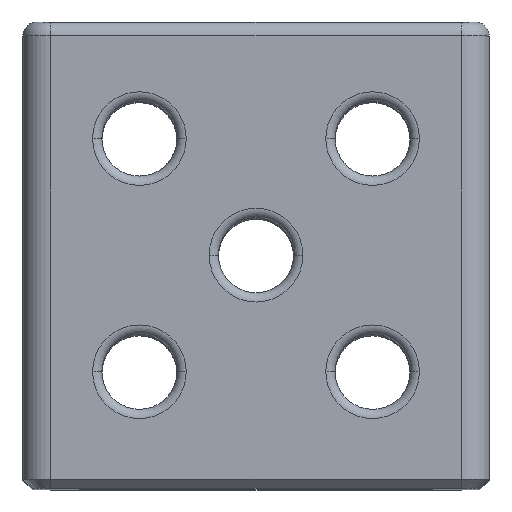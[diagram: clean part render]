
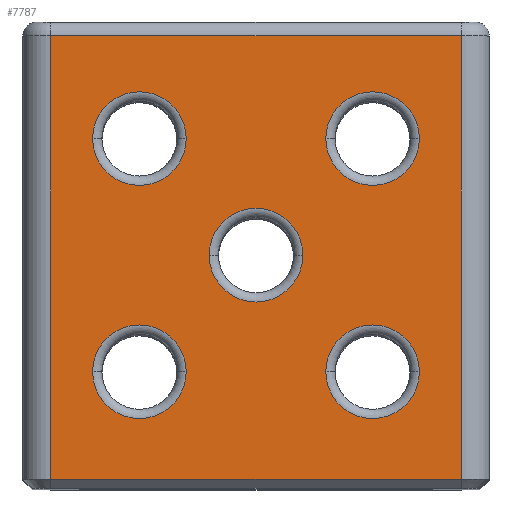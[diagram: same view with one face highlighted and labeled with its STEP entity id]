
A CAD part, top view. The second image highlights one B-rep face of the part: STEP entity #7787.
In plain terms, the highlighted planar face has unit normal (0, 0, 1).
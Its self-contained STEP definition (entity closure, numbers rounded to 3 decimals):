
#33 = CARTESIAN_POINT ( 'NONE',  ( -35.04, -75., 100. ) ) ;
#193 = DIRECTION ( 'NONE',  ( -1., 0., 0. ) ) ;
#211 = DIRECTION ( 'NONE',  ( -1., 0., 0. ) ) ;
#247 = DIRECTION ( 'NONE',  ( -1., 0., 0. ) ) ;
#415 = DIRECTION ( 'NONE',  ( -1., 0., 0. ) ) ;
#460 = VECTOR ( 'NONE', #3189, 1000. ) ;
#488 = EDGE_CURVE ( 'NONE', #6413, #2890, #1731, .T. ) ;
#493 = DIRECTION ( 'NONE',  ( 1., 0., 0. ) ) ;
#510 = CARTESIAN_POINT ( 'NONE',  ( -44., -98., 100. ) ) ;
#602 = EDGE_CURVE ( 'NONE', #4885, #8145, #8171, .T. ) ;
#664 = LINE ( 'NONE', #1286, #460 ) ;
#706 = CARTESIAN_POINT ( 'NONE',  ( 0., -3., 100. ) ) ;
#792 = FACE_BOUND ( 'NONE', #4499, .T. ) ;
#797 = CARTESIAN_POINT ( 'NONE',  ( 44., -3., 100. ) ) ;
#848 = DIRECTION ( 'NONE',  ( 0., 0., 1. ) ) ;
#854 = ORIENTED_EDGE ( 'NONE', *, *, #3053, .F. ) ;
#948 = CARTESIAN_POINT ( 'NONE',  ( 35.04, -25., 100. ) ) ;
#956 = CARTESIAN_POINT ( 'NONE',  ( 44., -98., 100. ) ) ;
#1043 = ORIENTED_EDGE ( 'NONE', *, *, #1738, .F. ) ;
#1104 = EDGE_CURVE ( 'NONE', #7746, #3282, #7986, .T. ) ;
#1257 = CIRCLE ( 'NONE', #8291, 10.04 ) ;
#1286 = CARTESIAN_POINT ( 'NONE',  ( -44., -12., 100. ) ) ;
#1330 = DIRECTION ( 'NONE',  ( 1., 0., 0. ) ) ;
#1434 = ORIENTED_EDGE ( 'NONE', *, *, #488, .F. ) ;
#1536 = LINE ( 'NONE', #706, #8376 ) ;
#1627 = ORIENTED_EDGE ( 'NONE', *, *, #4391, .T. ) ;
#1686 = CARTESIAN_POINT ( 'NONE',  ( -14.96, -25., 100. ) ) ;
#1731 = CIRCLE ( 'NONE', #2208, 10.04 ) ;
#1738 = EDGE_CURVE ( 'NONE', #4390, #2989, #1536, .T. ) ;
#1862 = EDGE_CURVE ( 'NONE', #8145, #4885, #6003, .T. ) ;
#1877 = CARTESIAN_POINT ( 'NONE',  ( 14.96, -25., 100. ) ) ;
#1935 = CARTESIAN_POINT ( 'NONE',  ( 25., -25., 100. ) ) ;
#2029 = CARTESIAN_POINT ( 'NONE',  ( 25., -75., 100. ) ) ;
#2208 = AXIS2_PLACEMENT_3D ( 'NONE', #2393, #2370, #2344 ) ;
#2246 = DIRECTION ( 'NONE',  ( 0., 0., -1. ) ) ;
#2263 = FACE_BOUND ( 'NONE', #5062, .T. ) ;
#2274 = CARTESIAN_POINT ( 'NONE',  ( -10.04, -50., 100. ) ) ;
#2344 = DIRECTION ( 'NONE',  ( -1., 0., 0. ) ) ;
#2364 = CIRCLE ( 'NONE', #4234, 10.04 ) ;
#2370 = DIRECTION ( 'NONE',  ( 0., 0., 1. ) ) ;
#2393 = CARTESIAN_POINT ( 'NONE',  ( -25., -25., 100. ) ) ;
#2460 = FACE_OUTER_BOUND ( 'NONE', #2491, .T. ) ;
#2491 = EDGE_LOOP ( 'NONE', ( #7878, #1043, #2725, #6098 ) ) ;
#2524 = ORIENTED_EDGE ( 'NONE', *, *, #1104, .F. ) ;
#2567 = DIRECTION ( 'NONE',  ( 1., 0., 0. ) ) ;
#2664 = DIRECTION ( 'NONE',  ( 1., 0., 0. ) ) ;
#2725 = ORIENTED_EDGE ( 'NONE', *, *, #6161, .F. ) ;
#2832 = AXIS2_PLACEMENT_3D ( 'NONE', #3374, #4034, #247 ) ;
#2890 = VERTEX_POINT ( 'NONE', #5128 ) ;
#2940 = CARTESIAN_POINT ( 'NONE',  ( 44., -12., 100. ) ) ;
#2989 = VERTEX_POINT ( 'NONE', #797 ) ;
#3053 = EDGE_CURVE ( 'NONE', #3282, #7746, #2364, .T. ) ;
#3189 = DIRECTION ( 'NONE',  ( 0., 1., 0. ) ) ;
#3216 = VERTEX_POINT ( 'NONE', #956 ) ;
#3282 = VERTEX_POINT ( 'NONE', #2274 ) ;
#3374 = CARTESIAN_POINT ( 'NONE',  ( 0., -12., 100. ) ) ;
#3494 = EDGE_LOOP ( 'NONE', ( #8070, #6323 ) ) ;
#3528 = DIRECTION ( 'NONE',  ( 0., 0., 1. ) ) ;
#3625 = AXIS2_PLACEMENT_3D ( 'NONE', #6045, #2246, #6770 ) ;
#3648 = DIRECTION ( 'NONE',  ( -1., 0., 0. ) ) ;
#3782 = VERTEX_POINT ( 'NONE', #948 ) ;
#3943 = FACE_BOUND ( 'NONE', #4313, .T. ) ;
#3968 = DIRECTION ( 'NONE',  ( 0., 0., 1. ) ) ;
#3987 = DIRECTION ( 'NONE',  ( 0., 0., 1. ) ) ;
#4034 = DIRECTION ( 'NONE',  ( 0., 0., 1. ) ) ;
#4074 = CARTESIAN_POINT ( 'NONE',  ( -14.96, -75., 100. ) ) ;
#4203 = DIRECTION ( 'NONE',  ( 0., 0., 1. ) ) ;
#4234 = AXIS2_PLACEMENT_3D ( 'NONE', #4648, #848, #5265 ) ;
#4272 = DIRECTION ( 'NONE',  ( 0., 0., -1. ) ) ;
#4313 = EDGE_LOOP ( 'NONE', ( #4812, #6550 ) ) ;
#4347 = EDGE_CURVE ( 'NONE', #3216, #2989, #6351, .T. ) ;
#4390 = VERTEX_POINT ( 'NONE', #5502 ) ;
#4391 = EDGE_CURVE ( 'NONE', #5325, #3782, #1257, .T. ) ;
#4499 = EDGE_LOOP ( 'NONE', ( #8268, #1434 ) ) ;
#4645 = VECTOR ( 'NONE', #6110, 1000. ) ;
#4648 = CARTESIAN_POINT ( 'NONE',  ( 0., -50., 100. ) ) ;
#4675 = AXIS2_PLACEMENT_3D ( 'NONE', #2029, #6507, #2664 ) ;
#4812 = ORIENTED_EDGE ( 'NONE', *, *, #6536, .T. ) ;
#4869 = VERTEX_POINT ( 'NONE', #7416 ) ;
#4885 = VERTEX_POINT ( 'NONE', #4074 ) ;
#4907 = VERTEX_POINT ( 'NONE', #5357 ) ;
#4949 = EDGE_CURVE ( 'NONE', #4869, #5209, #7291, .T. ) ;
#5062 = EDGE_LOOP ( 'NONE', ( #8465, #1627 ) ) ;
#5080 = CIRCLE ( 'NONE', #4675, 10.04 ) ;
#5128 = CARTESIAN_POINT ( 'NONE',  ( -35.04, -25., 100. ) ) ;
#5209 = VERTEX_POINT ( 'NONE', #5605 ) ;
#5256 = LINE ( 'NONE', #510, #7832 ) ;
#5265 = DIRECTION ( 'NONE',  ( -1., 0., 0. ) ) ;
#5325 = VERTEX_POINT ( 'NONE', #1877 ) ;
#5357 = CARTESIAN_POINT ( 'NONE',  ( -44., -98., 100. ) ) ;
#5502 = CARTESIAN_POINT ( 'NONE',  ( -44., -3., 100. ) ) ;
#5605 = CARTESIAN_POINT ( 'NONE',  ( 35.04, -75., 100. ) ) ;
#5649 = FACE_BOUND ( 'NONE', #3494, .T. ) ;
#5798 = EDGE_LOOP ( 'NONE', ( #854, #2524 ) ) ;
#5825 = EDGE_CURVE ( 'NONE', #2890, #6413, #7277, .T. ) ;
#5835 = AXIS2_PLACEMENT_3D ( 'NONE', #8057, #3968, #193 ) ;
#5866 = CARTESIAN_POINT ( 'NONE',  ( 10.04, -50., 100. ) ) ;
#6003 = CIRCLE ( 'NONE', #7413, 10.04 ) ;
#6045 = CARTESIAN_POINT ( 'NONE',  ( 25., -75., 100. ) ) ;
#6071 = AXIS2_PLACEMENT_3D ( 'NONE', #1935, #6399, #2567 ) ;
#6098 = ORIENTED_EDGE ( 'NONE', *, *, #7314, .F. ) ;
#6110 = DIRECTION ( 'NONE',  ( 0., 1., 0. ) ) ;
#6161 = EDGE_CURVE ( 'NONE', #4907, #4390, #664, .T. ) ;
#6323 = ORIENTED_EDGE ( 'NONE', *, *, #602, .F. ) ;
#6351 = LINE ( 'NONE', #2940, #4645 ) ;
#6399 = DIRECTION ( 'NONE',  ( 0., 0., -1. ) ) ;
#6413 = VERTEX_POINT ( 'NONE', #1686 ) ;
#6507 = DIRECTION ( 'NONE',  ( 0., 0., -1. ) ) ;
#6510 = AXIS2_PLACEMENT_3D ( 'NONE', #7583, #3528, #8260 ) ;
#6536 = EDGE_CURVE ( 'NONE', #5209, #4869, #5080, .T. ) ;
#6550 = ORIENTED_EDGE ( 'NONE', *, *, #4949, .T. ) ;
#6703 = CIRCLE ( 'NONE', #6071, 10.04 ) ;
#6770 = DIRECTION ( 'NONE',  ( 1., 0., 0. ) ) ;
#7277 = CIRCLE ( 'NONE', #7348, 10.04 ) ;
#7291 = CIRCLE ( 'NONE', #3625, 10.04 ) ;
#7314 = EDGE_CURVE ( 'NONE', #3216, #4907, #5256, .T. ) ;
#7348 = AXIS2_PLACEMENT_3D ( 'NONE', #8293, #4203, #415 ) ;
#7392 = PLANE ( 'NONE',  #2832 ) ;
#7413 = AXIS2_PLACEMENT_3D ( 'NONE', #8078, #3987, #211 ) ;
#7416 = CARTESIAN_POINT ( 'NONE',  ( 14.96, -75., 100. ) ) ;
#7583 = CARTESIAN_POINT ( 'NONE',  ( -25., -75., 100. ) ) ;
#7746 = VERTEX_POINT ( 'NONE', #5866 ) ;
#7787 = ADVANCED_FACE ( 'NONE', ( #7811, #2460, #5649, #792, #3943, #2263 ), #7392, .T. ) ;
#7811 = FACE_BOUND ( 'NONE', #5798, .T. ) ;
#7832 = VECTOR ( 'NONE', #3648, 1000. ) ;
#7878 = ORIENTED_EDGE ( 'NONE', *, *, #4347, .T. ) ;
#7986 = CIRCLE ( 'NONE', #5835, 10.04 ) ;
#8057 = CARTESIAN_POINT ( 'NONE',  ( 0., -50., 100. ) ) ;
#8070 = ORIENTED_EDGE ( 'NONE', *, *, #1862, .F. ) ;
#8078 = CARTESIAN_POINT ( 'NONE',  ( -25., -75., 100. ) ) ;
#8145 = VERTEX_POINT ( 'NONE', #33 ) ;
#8148 = EDGE_CURVE ( 'NONE', #3782, #5325, #6703, .T. ) ;
#8171 = CIRCLE ( 'NONE', #6510, 10.04 ) ;
#8260 = DIRECTION ( 'NONE',  ( -1., 0., 0. ) ) ;
#8268 = ORIENTED_EDGE ( 'NONE', *, *, #5825, .F. ) ;
#8291 = AXIS2_PLACEMENT_3D ( 'NONE', #8358, #4272, #493 ) ;
#8293 = CARTESIAN_POINT ( 'NONE',  ( -25., -25., 100. ) ) ;
#8358 = CARTESIAN_POINT ( 'NONE',  ( 25., -25., 100. ) ) ;
#8376 = VECTOR ( 'NONE', #1330, 1000. ) ;
#8465 = ORIENTED_EDGE ( 'NONE', *, *, #8148, .T. ) ;
